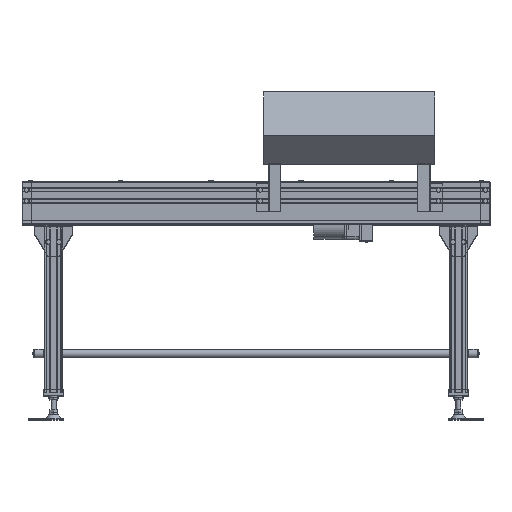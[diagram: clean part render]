
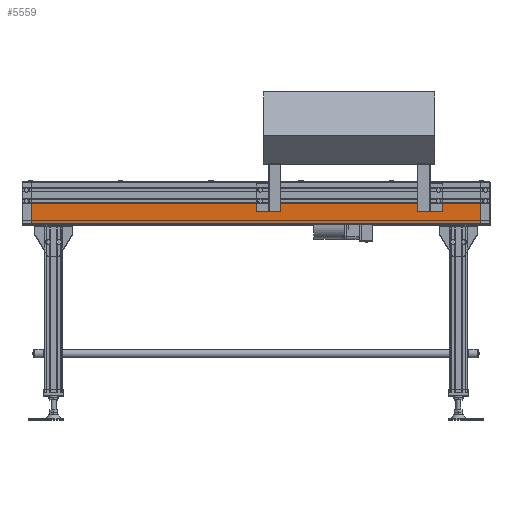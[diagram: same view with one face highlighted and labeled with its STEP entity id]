
A CAD part, top view. The second image highlights one B-rep face of the part: STEP entity #5559.
In plain terms, the highlighted planar face has unit normal (0, 0, 1).
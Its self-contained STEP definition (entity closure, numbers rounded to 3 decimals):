
#5559=ADVANCED_FACE('',(#12779),#12778,.F.);
#12778=PLANE('',#27765);
#12779=FACE_OUTER_BOUND('',#27766,.T.);
#27762=CARTESIAN_POINT('',(-10.,-131.175,710.));
#27763=DIRECTION('',(0.,0.,-1.));
#27764=DIRECTION('',(0.,1.,0.));
#27765=AXIS2_PLACEMENT_3D('',#27762,#27763,#27764);
#27766=EDGE_LOOP('',(#37864,#37865,#37866,#37867));
#37864=ORIENTED_EDGE('',*,*,#45256,.T.);
#37865=ORIENTED_EDGE('',*,*,#45257,.F.);
#37866=ORIENTED_EDGE('',*,*,#45258,.F.);
#37867=ORIENTED_EDGE('',*,*,#45254,.T.);
#45254=EDGE_CURVE('',#56848,#56841,#56849,.T.);
#45256=EDGE_CURVE('',#56841,#56861,#56862,.T.);
#45257=EDGE_CURVE('',#56868,#56861,#56869,.T.);
#45258=EDGE_CURVE('',#56848,#56868,#56875,.T.);
#56841=VERTEX_POINT('',#82087);
#56848=VERTEX_POINT('',#82091);
#56849=LINE('',#82092,#82093);
#56861=VERTEX_POINT('',#82098);
#56862=LINE('',#82099,#82100);
#56868=VERTEX_POINT('',#82102);
#56869=LINE('',#82103,#82104);
#56875=LINE('',#82106,#82107);
#82087=CARTESIAN_POINT('',(0.,-52.25,710.));
#82091=CARTESIAN_POINT('',(1502.,-52.25,710.));
#82092=CARTESIAN_POINT('',(1502.,-52.25,710.));
#82093=VECTOR('',#82094,1502.);
#82094=DIRECTION('',(-1.,0.,0.));
#82098=CARTESIAN_POINT('',(0.,-124.,710.));
#82099=CARTESIAN_POINT('',(0.,-52.25,710.));
#82100=VECTOR('',#82101,71.75);
#82101=DIRECTION('',(0.,-1.,0.));
#82102=CARTESIAN_POINT('',(1502.,-124.,710.));
#82103=CARTESIAN_POINT('',(1502.,-124.,710.));
#82104=VECTOR('',#82105,1502.);
#82105=DIRECTION('',(-1.,0.,0.));
#82106=CARTESIAN_POINT('',(1502.,-52.25,710.));
#82107=VECTOR('',#82108,71.75);
#82108=DIRECTION('',(0.,-1.,0.));
